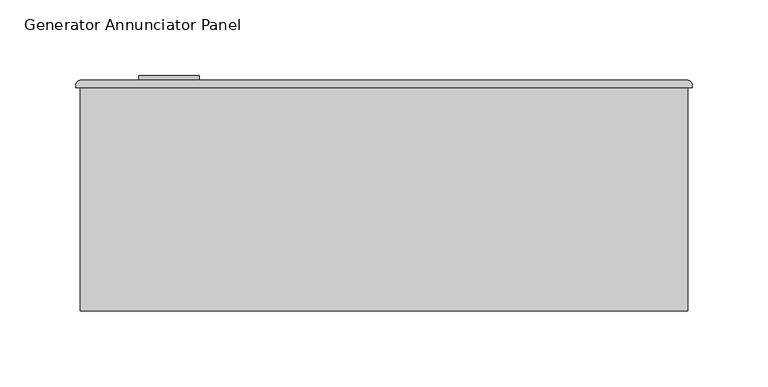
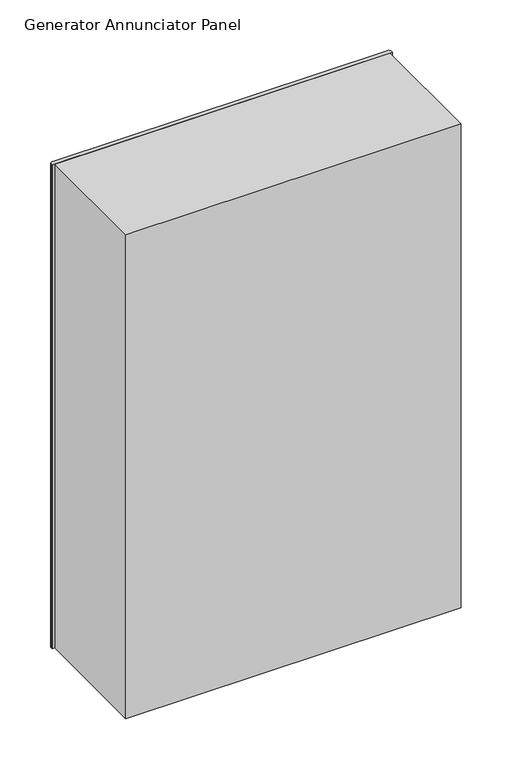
"""IFC4 building model written with IfcOpenShell, lengths in millimetres: proxy geometry, Generator_Annunciator_Panel_Wallmount_BIM_Model_Revised : Generator Annunciator Panel."""

from ifc_helpers import new_model, si_unit, point, frame, frame_2d, origin, place, context, project, spatial, polyline, circle_curve, trimmed, segment, composite_curve, outline, extrude, source, transform, mapped, element, save


def generator_annunciator_panel_eb6c5e21(model_context):
    return source(origin(), model_context, "Body", "SweptSolid", [
        extrude(outline(composite_curve([segment(trimmed(circle_curve(frame_2d((841.0, -16.7274277)), 20.0), [point((841.0, -36.7274277))], [point((841.0, 3.2725723))], False, "CARTESIAN"), True, "CONTINUOUS"), segment(trimmed(circle_curve(frame_2d((841.0, -16.7274277)), 20.0), [point((841.0, 3.2725723))], [point((841.0, -36.7274277))], False, "CARTESIAN"), True, "CONTINUOUS")], self_intersect=False), holes=[polyline([(848.2746144, -18.5031745), (848.2746144, -13.5031745), (833.2746144, -13.5031745), (833.2746144, -18.5031745), (848.2746144, -18.5031745)])]), frame((0.0, 303.3334431, 0.0), z_axis=(0.0, 1.0, 0.0), x_axis=(0.0, 0.0, 1.0)), (0.0, 0.0, 1.0), 3.0),
        extrude(outline(composite_curve([segment(trimmed(circle_curve(frame_2d((325.0, 300.3334431)), 3.0), [point((325.0, 303.3334431))], [point((328.0, 300.3334431))], False, "CARTESIAN"), True, "CONTINUOUS"), segment(polyline([(328.0, 300.3334431), (328.0, 298.4517282), (-78.0, 298.4517282), (-78.0, 300.3334431)]), True, "CONTINUOUS"), segment(trimmed(circle_curve(frame_2d((-75.0, 300.3334431)), 3.0), [point((-78.0, 300.3334431))], [point((-75.0, 303.3334431))], False, "CARTESIAN"), True, "CONTINUOUS"), segment(polyline([(-75.0, 303.3334431), (325.0, 303.3334431)]), True, "CONTINUOUS")], self_intersect=False)), frame((0.0, 0.0, 460.0), z_axis=(0.0, 0.0, 1.0), x_axis=(1.0, 0.0, 0.0)), (0.0, 0.0, 1.0), 610.0),
        extrude(outline(polyline([(325.0, 298.4517282), (325.0, 151.3334431), (-75.0, 151.3334431), (-75.0, 298.4517282), (325.0, 298.4517282)])), frame((0.0, 0.0, 460.0), z_axis=(0.0, 0.0, 1.0), x_axis=(1.0, 0.0, 0.0)), (0.0, 0.0, 1.0), 610.0),
    ])


if __name__ == "__main__":
    model = new_model("IFC4")
    model_context = context("Model", 3, world=origin())
    ifc_project = project(units=[si_unit("LENGTHUNIT", "METRE", prefix="MILLI")], contexts=[model_context])
    site = spatial("IfcSite", under=ifc_project)
    building = spatial("IfcBuilding", under=site)
    placement = place(None, origin())
    generator_annunciator_panel_shape = generator_annunciator_panel_eb6c5e21(model_context)
    element("IfcBuildingElementProxy", 1, Name="Generator_Annunciator_Panel_Wallmount_BIM_Model_Revised : Generator Annunciator Panel", ObjectType="Generator_Annunciator_Panel_Wallmount_BIM_Model_Revised : Generator Annunciator Panel", at=placement, inside=building, context=model_context, shape_type="MappedRepresentation", body=[
        mapped(generator_annunciator_panel_shape, transform((0.0, 0.0, 0.0), x_axis=(1.0, 0.0, 0.0), y_axis=(0.0, 1.0, 0.0), z_axis=(0.0, 0.0, 1.0))),
    ])
    save(model, "model.ifc")
